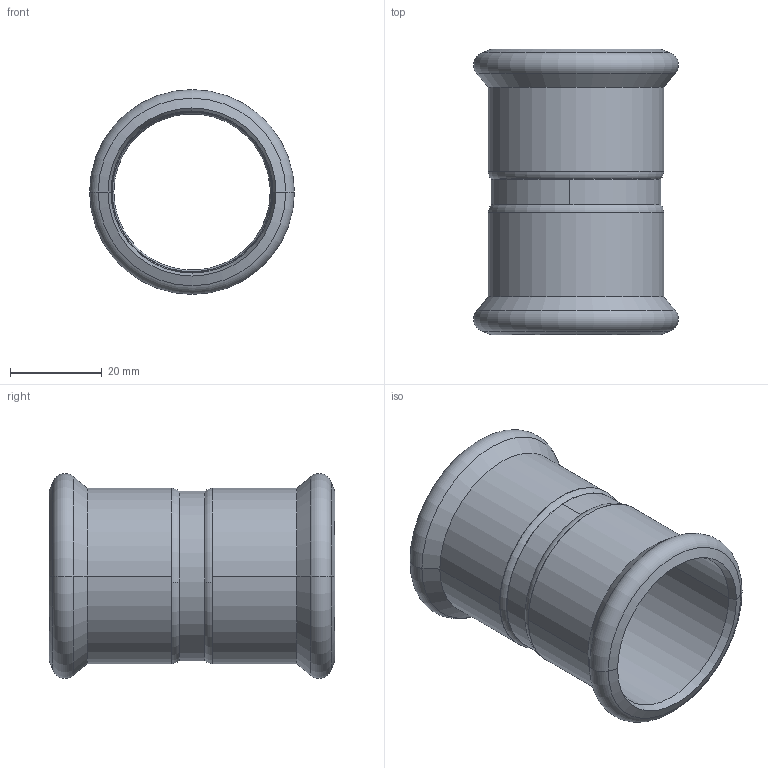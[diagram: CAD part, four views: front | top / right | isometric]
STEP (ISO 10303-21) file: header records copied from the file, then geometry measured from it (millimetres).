
FILE_DESCRIPTION(('Creo Elements/Direct Modeling STEP Export'),'2;1');
FILE_NAME('686140.4.stp','2018-06-29T14:55:52',(''),(''),'PTC Creo Elements/Direct Modeling STEP processor for AP214 (Solid Model)','PTC Creo Elements/Direct Modeling 19.0C 15-Aug-2015 (C) Parametric Technology GmbH','');
FILE_SCHEMA(('AUTOMOTIVE_DESIGN { 1 0 10303 214 1 1 1 1 }'));
Length unit declared in the file: millimetre
Products named in the file (3): Tussenstuk35x35kort; 620038.1; 686140.4.1
Assembly tree (3 placements, depth 2):
  686140.4.1
    620038.1  x2
    Tussenstuk35x35kort
Bounding box: 44.55 x 62.14 x 44.55 mm (x, y, z)
Volume: 14549.9 mm3; surface area: 16122.3 mm2
Topology: 3 solids, 3 shells, 52 faces, 126 edges, 78 vertices
Faces by surface type: cone 20, torus 16, cylinder 12, plane 4
Entity records: 1104 total; most frequent: ORIENTED_EDGE 200, DIRECTION 178, CARTESIAN_POINT 164, EDGE_CURVE 100, AXIS2_PLACEMENT_3D 78, VERTEX_POINT 64, EDGE_LOOP 42, FACE_OUTER_BOUND 39
